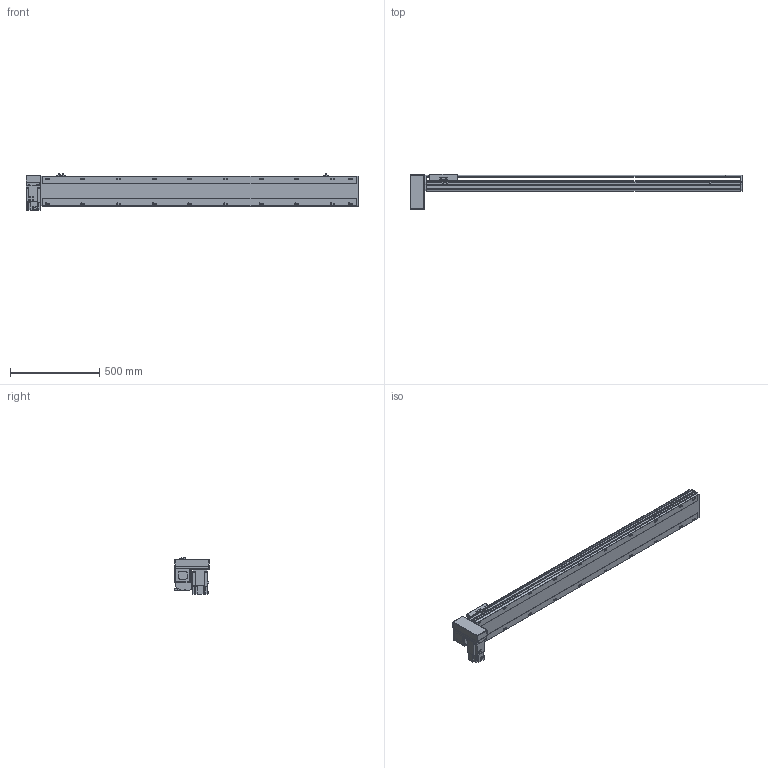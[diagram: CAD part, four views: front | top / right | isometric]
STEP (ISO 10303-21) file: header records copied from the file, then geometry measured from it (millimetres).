
FILE_DESCRIPTION(/* description */ ('STEP AP214'),/* implementation_level */ '2;1');
FILE_NAME(/* name */ 'PBS170-P40-S1500-RD-T75-C1-N(0)',/* time_stamp */ '2022-06-08T07:36:12+02:00',/* author */ ('License CC BY-ND 4.0'),/* organization */ ('CADENAS'),/* preprocessor_version */ 'ST-DEVELOPER v18.102',/* originating_system */ 'PARTsolutions',/* authorisation */ ' ');
FILE_SCHEMA (('AUTOMOTIVE_DESIGN {1 0 10303 214 3 1 1}'));
Length unit declared in the file: millimetre
Products named in the file (7): PBS170-P40-S1500-RD-T75-C1-N(0); PBS170_sensor; PBS170_plant; PBS170_sliser; T75-p1; PBS170T-RD_motors; PBS170-S1500()_body
Assembly tree (8 placements, depth 2):
  PBS170-P40-S1500-RD-T75-C1-N(0)
    PBS170_sensor  x3
    PBS170_plant
    PBS170_sliser
    T75-p1
    PBS170T-RD_motors
    PBS170-S1500()_body
Bounding box: 1863 x 201 x 205.3 mm (x, y, z)
Volume: 14551992.7 mm3; surface area: 1870427.2 mm2
Topology: 8 solids, 8 shells, 1114 faces, 2955 edges, 1926 vertices
Faces by surface type: plane 699, cylinder 355, cone 50, sphere 8, torus 2
Full cylindrical faces by diameter (mm): 3.242 x4, 4 x2, 4.4 x4, 4.5 x6, 4.917 x4, 6 x9, 6.647 x28, 7 x2, 7.5 x4, 8 x8, 8.5 x20, 10 x4, 10.5 x20, 11 x2, 30 x2, 40 x1, 70 x1
Entity records: 32034 total; most frequent: CARTESIAN_POINT 5937, DIRECTION 5440, ORIENTED_EDGE 5148, EDGE_CURVE 2574, AXIS2_PLACEMENT_3D 1897, VERTEX_POINT 1778, LINE 1646, VECTOR 1646
